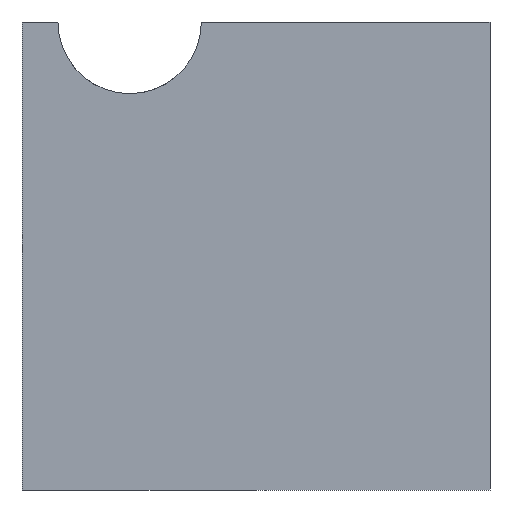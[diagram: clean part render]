
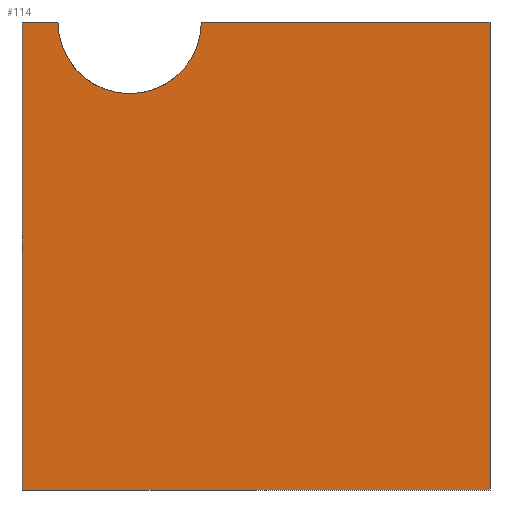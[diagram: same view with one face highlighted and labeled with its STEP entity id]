
A CAD part, left-side view. The second image highlights one B-rep face of the part: STEP entity #114.
In plain terms, the highlighted planar face has unit normal (-1, 0, 0).
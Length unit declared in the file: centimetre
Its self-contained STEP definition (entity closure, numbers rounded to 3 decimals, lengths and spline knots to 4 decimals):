
#6 = VECTOR ( 'NONE', #309, 100. ) ;
#12 = VERTEX_POINT ( 'NONE', #507 ) ;
#24 = DIRECTION ( 'NONE',  ( 0., 0., -1. ) ) ;
#87 = CARTESIAN_POINT ( 'NONE',  ( 0., 1000., 1000. ) ) ;
#103 = LINE ( 'NONE', #509, #156 ) ;
#113 = ORIENTED_EDGE ( 'NONE', *, *, #499, .F. ) ;
#114 = ADVANCED_FACE ( 'NONE', ( #316 ), #488, .F. ) ;
#117 = ORIENTED_EDGE ( 'NONE', *, *, #193, .F. ) ;
#120 = EDGE_CURVE ( 'NONE', #474, #640, #366, .T. ) ;
#135 = AXIS2_PLACEMENT_3D ( 'NONE', #312, #653, #24 ) ;
#156 = VECTOR ( 'NONE', #503, 100. ) ;
#165 = CARTESIAN_POINT ( 'NONE',  ( 0., 0., 1000. ) ) ;
#182 = ORIENTED_EDGE ( 'NONE', *, *, #272, .T. ) ;
#193 = EDGE_CURVE ( 'NONE', #640, #12, #656, .T. ) ;
#199 = VECTOR ( 'NONE', #386, 100. ) ;
#240 = EDGE_LOOP ( 'NONE', ( #113, #117, #718, #565, #182, #367 ) ) ;
#263 = VECTOR ( 'NONE', #457, 100. ) ;
#268 = VERTEX_POINT ( 'NONE', #620 ) ;
#272 = EDGE_CURVE ( 'NONE', #421, #268, #103, .T. ) ;
#309 = DIRECTION ( 'NONE',  ( 0., -1., 0. ) ) ;
#312 = CARTESIAN_POINT ( 'NONE',  ( 0., 1000., 1000. ) ) ;
#314 = CARTESIAN_POINT ( 'NONE',  ( 0., 769.9934, 1000. ) ) ;
#316 = FACE_OUTER_BOUND ( 'NONE', #240, .T. ) ;
#322 = AXIS2_PLACEMENT_3D ( 'NONE', #314, #669, #721 ) ;
#336 = CARTESIAN_POINT ( 'NONE',  ( 0., 1000., 0. ) ) ;
#341 = CARTESIAN_POINT ( 'NONE',  ( 0., 1000., 1000. ) ) ;
#351 = CARTESIAN_POINT ( 'NONE',  ( 0., 1000., 1000. ) ) ;
#366 = LINE ( 'NONE', #87, #6 ) ;
#367 = ORIENTED_EDGE ( 'NONE', *, *, #381, .F. ) ;
#381 = EDGE_CURVE ( 'NONE', #391, #268, #622, .T. ) ;
#386 = DIRECTION ( 'NONE',  ( 0., 0., -1. ) ) ;
#391 = VERTEX_POINT ( 'NONE', #165 ) ;
#395 = CARTESIAN_POINT ( 'NONE',  ( 0., 923.1512, 1000. ) ) ;
#403 = EDGE_CURVE ( 'NONE', #474, #421, #632, .T. ) ;
#421 = VERTEX_POINT ( 'NONE', #336 ) ;
#457 = DIRECTION ( 'NONE',  ( 0., -1., 0. ) ) ;
#474 = VERTEX_POINT ( 'NONE', #341 ) ;
#488 = PLANE ( 'NONE',  #135 ) ;
#499 = EDGE_CURVE ( 'NONE', #12, #391, #643, .T. ) ;
#503 = DIRECTION ( 'NONE',  ( 0., -1., 0. ) ) ;
#507 = CARTESIAN_POINT ( 'NONE',  ( 0., 616.8356, 1000. ) ) ;
#509 = CARTESIAN_POINT ( 'NONE',  ( 0., 1000., 0. ) ) ;
#565 = ORIENTED_EDGE ( 'NONE', *, *, #403, .T. ) ;
#580 = DIRECTION ( 'NONE',  ( 0., 0., -1. ) ) ;
#620 = CARTESIAN_POINT ( 'NONE',  ( 0., 0., 0. ) ) ;
#622 = LINE ( 'NONE', #684, #199 ) ;
#632 = LINE ( 'NONE', #707, #664 ) ;
#640 = VERTEX_POINT ( 'NONE', #395 ) ;
#643 = LINE ( 'NONE', #351, #263 ) ;
#653 = DIRECTION ( 'NONE',  ( 1., 0., 0. ) ) ;
#656 = CIRCLE ( 'NONE', #322, 153.1578 ) ;
#664 = VECTOR ( 'NONE', #580, 100. ) ;
#669 = DIRECTION ( 'NONE',  ( -1., 0., 0. ) ) ;
#684 = CARTESIAN_POINT ( 'NONE',  ( 0., 0., 1000. ) ) ;
#707 = CARTESIAN_POINT ( 'NONE',  ( 0., 1000., 1000. ) ) ;
#718 = ORIENTED_EDGE ( 'NONE', *, *, #120, .F. ) ;
#721 = DIRECTION ( 'NONE',  ( 0., 0., 1. ) ) ;
